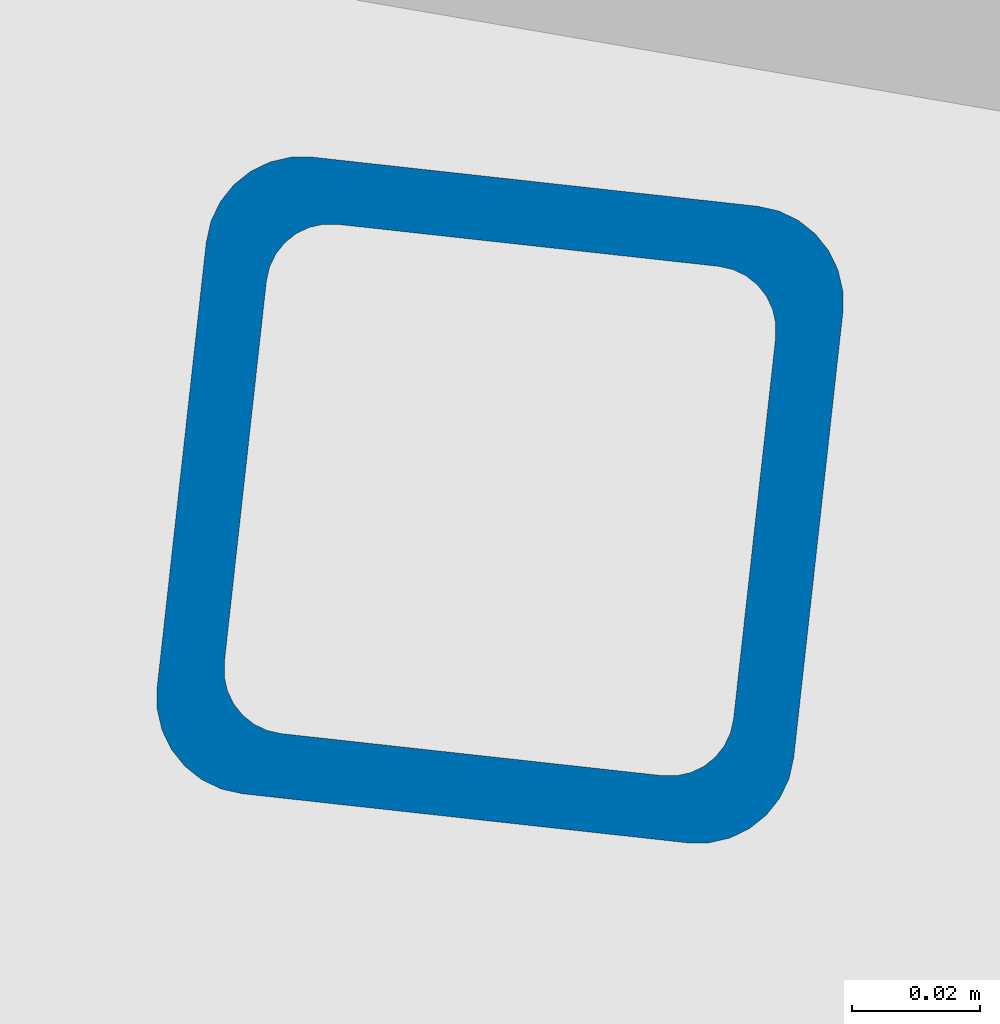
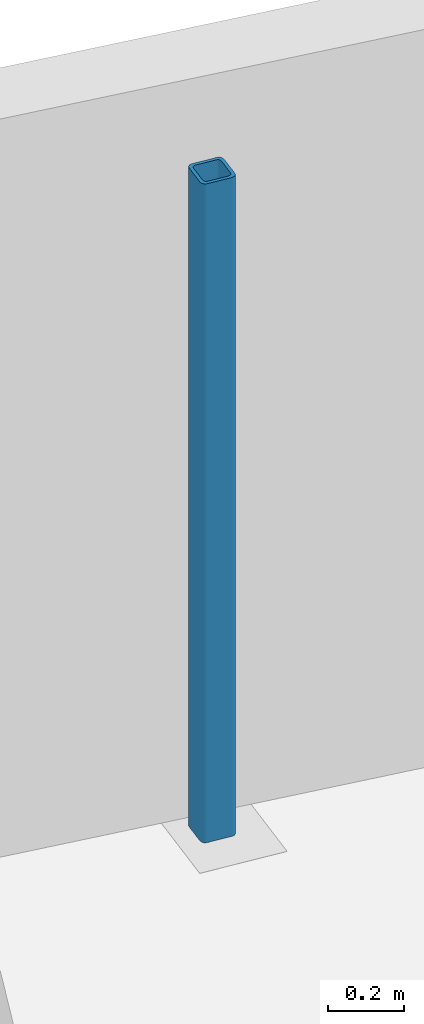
# One storey, part 4 of 11: 1 column.
"""IFC2X3 building model written with IfcOpenShell, lengths in millimetres."""

from ifc_helpers import new_model, entity, si_unit, converted_unit, derived_unit, direction, frame, frame_2d, origin, place, context, subcontext, project, spatial, polyline, circle_curve, parameter, trimmed, segment, composite_curve, outline, extrude, source, transform, mapped, material, type_object, type_shapes, element, save


model = new_model("IFC2X3")

# Units and contexts
model_context = context("Model", 3, precision=0.01, world=origin(), true_north=direction((6.123233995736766e-17, 1.0)))
body_context = subcontext(model_context, "Body", "Model", "MODEL_VIEW")
ifc_project = project(units=[si_unit("LENGTHUNIT", "METRE", prefix="MILLI"), converted_unit("PLANEANGLEUNIT", "DEGREE", entity("IfcPlaneAngleMeasure", 0.017453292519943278), si_unit("PLANEANGLEUNIT", "RADIAN"), dimensions=[0, 0, 0, 0, 0, 0, 0]), si_unit("AREAUNIT", "SQUARE_METRE"), derived_unit("THERMALTRANSMITTANCEUNIT", [(si_unit("MASSUNIT", "GRAM", prefix="KILO"), 1), (si_unit("THERMODYNAMICTEMPERATUREUNIT", "KELVIN"), -1), (si_unit("TIMEUNIT", "SECOND"), -3)])], contexts=[model_context])

# Site, building, storey
site_placement = place(None, frame((-72937.88054949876, 11621.45624098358, 0.0), z_axis=(0.0, 0.0, 1.0), x_axis=(0.9346418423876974, -0.35559053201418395, 0.0)))
site = spatial("IfcSite", under=ifc_project, at=site_placement, Name="Default", CompositionType="ELEMENT")
building_placement = place(site_placement, origin())
building = spatial("IfcBuilding", under=site, at=building_placement, CompositionType="ELEMENT")
storey_placement = place(building_placement, frame((0.0, 0.0, -3160.0)))
storey = spatial("IfcBuildingStorey", under=building, at=storey_placement, Name="-1 kelder", CompositionType="ELEMENT", Elevation=-3160.0)

# Column
ifc_material = material(Name="metaal_staal_generiek")
column_type = type_object("IfcColumnType", Name="K100x10", PredefinedType="COLUMN", material=ifc_material)
shared_shape = source(origin(), body_context, "Body", "SweptSolid", [
    extrude(outline(composite_curve([segment(polyline([(-35.0, -50.0), (35.0, -50.0)]), True, "CONTINUOUS"), segment(trimmed(circle_curve(frame_2d((35.0, -35.0), x_axis=(-1.0, 0.0)), 15.0), [parameter(90.00000000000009)], [parameter(180.00000000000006)], True, "PARAMETER"), True, "CONTINUOUS"), segment(polyline([(50.0, -35.0), (50.0, 35.0)]), True, "CONTINUOUS"), segment(trimmed(circle_curve(frame_2d((35.0, 35.0), x_axis=(-1.0, 0.0)), 15.0), [parameter(179.99999999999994)], [parameter(270.00000000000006)], True, "PARAMETER"), True, "CONTINUOUS"), segment(polyline([(35.0, 50.0), (-35.0, 50.0)]), True, "CONTINUOUS"), segment(trimmed(circle_curve(frame_2d((-35.0, 35.0), x_axis=(-1.0, 0.0)), 15.0), [parameter(269.99999999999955)], [parameter(359.9999999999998)], True, "PARAMETER"), True, "CONTINUOUS"), segment(polyline([(-50.0, 35.0), (-50.0, -35.0)]), True, "CONTINUOUS"), segment(trimmed(circle_curve(frame_2d((-35.0, -35.0), x_axis=(-1.0, 0.0)), 15.0), [parameter(359.99999999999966)], [parameter(89.99999999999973)], True, "PARAMETER"), True, "CONTINUOUS")], self_intersect=False), holes=[composite_curve([segment(trimmed(circle_curve(frame_2d((-30.0, -30.0), x_axis=(-1.0, 0.0)), 10.0), [parameter(0.0)], [parameter(90.00000000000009)], True, "PARAMETER"), False, "CONTINUOUS"), segment(polyline([(-40.0, -30.0), (-40.0, 30.0)]), True, "CONTINUOUS"), segment(trimmed(circle_curve(frame_2d((-30.0, 30.0), x_axis=(-1.0, 0.0)), 10.0), [parameter(269.9999999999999)], [parameter(0.0)], True, "PARAMETER"), False, "CONTINUOUS"), segment(polyline([(-30.0, 40.0), (30.0, 40.0)]), True, "CONTINUOUS"), segment(trimmed(circle_curve(frame_2d((30.0, 30.0), x_axis=(-1.0, 0.0)), 10.0), [parameter(179.99999999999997)], [parameter(270.00000000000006)], True, "PARAMETER"), False, "CONTINUOUS"), segment(polyline([(40.0, 30.0), (40.0, -30.0)]), True, "CONTINUOUS"), segment(trimmed(circle_curve(frame_2d((30.0, -30.0), x_axis=(-1.0, 0.0)), 10.0), [parameter(90.00000000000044)], [parameter(180.0)], True, "PARAMETER"), False, "CONTINUOUS"), segment(polyline([(30.0, -40.0), (-30.0, -40.0)]), True, "CONTINUOUS")], self_intersect=False)]), frame((15995.583942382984, 35247.462679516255, -3160.0), z_axis=(0.0, 0.0, 1.0), x_axis=(-0.9679826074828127, -0.2510172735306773, 0.0)), (0.0, 0.0, 1.0), 2106.9999999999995),
])
type_shapes(column_type, [shared_shape])
column_placement = place(storey_placement, frame((0.0, 0.0, 3160.0)))
element("IfcColumn", 1, at=column_placement, inside=storey, type_object=column_type, material=ifc_material, Name="28.11_Kolom koker gelijkzijdig", ObjectType="stalen kolom, koker gelijkzijdig", context=body_context, shape_type="MappedRepresentation", body=[
    mapped(shared_shape, transform((0.0, 0.0, 0.0), scale=1.0)),
])

save(model, "model.ifc")
